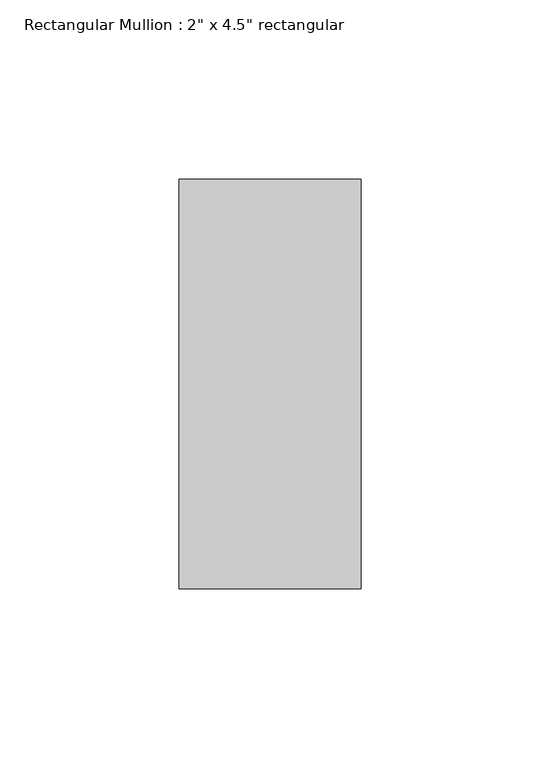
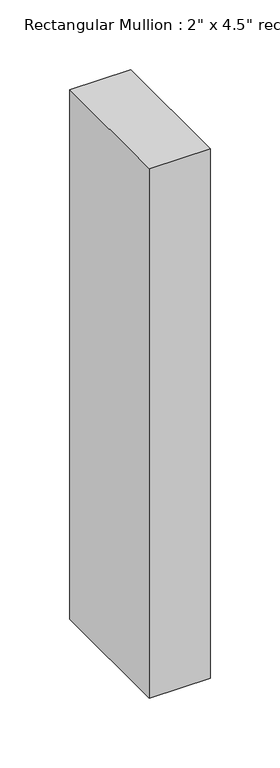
"""IFC4 building model written with IfcOpenShell, lengths in millimetres: member geometry."""

import ifcopenshell
import ifcopenshell.guid

model = None  # the IFC model being written
_history = None  # IfcOwnerHistory: only IFC2X3 demands one
_inside = {}  # id of a spatial element -> (the spatial element, [elements in it])
_under = {}  # id of a project, library or spatial element -> (it, [spatial elements below it])
_declared = {}  # id of a project -> (the project, [libraries it declares])
_typed = {}  # id of a type object -> (the type object, [elements of that type])
_made_of = {}  # id of a material, layer set ... -> (it, [elements and type objects made of it])


def new_model(schema):
    """Start an empty IFC model of exactly this schema.

    Asked for "IFC4X3", IfcOpenShell would pick the latest addendum, in which some entities
    have other attributes; the version numbers below select the first issue.
    IFC2X3 requires an IfcOwnerHistory on every rooted entity: one is made here for all.
    """
    global model, _history
    if schema == "IFC4X3":
        model = ifcopenshell.file(schema_version=(4, 3, 0, 0))
    else:
        model = ifcopenshell.file(schema=schema)
    _inside.clear()
    _under.clear()
    _declared.clear()
    _typed.clear()
    _made_of.clear()
    _history = None
    if model.schema == "IFC2X3":
        org = make("IfcOrganization", Name="unknown")
        user = make(
            "IfcPersonAndOrganization",
            ThePerson=make("IfcPerson", FamilyName="unknown"),
            TheOrganization=org,
        )
        app = make(
            "IfcApplication",
            ApplicationDeveloper=org,
            Version="unknown",
            ApplicationFullName="unknown",
            ApplicationIdentifier="unknown",
        )
        _history = make(
            "IfcOwnerHistory",
            OwningUser=user,
            OwningApplication=app,
            ChangeAction="ADDED",
            CreationDate=0,
        )
    return model


def make(cls, **values):
    """One entity of the class cls with the attributes given. An attribute that is None is left unset."""
    return model.create_entity(
        cls, **{name: value for name, value in values.items() if value is not None}
    )


def rooted(cls, **values):
    """An entity with a GlobalId (a new one), such as an element, a storey or a relation."""
    return make(cls, GlobalId=ifcopenshell.guid.new(), OwnerHistory=_history, **values)


def si_unit(unit_type, name, prefix=None):
    """IfcSIUnit, for example si_unit("LENGTHUNIT", "METRE", prefix="MILLI")."""
    return make("IfcSIUnit", UnitType=unit_type, Prefix=prefix, Name=name)


def assignment(units):
    """IfcUnitAssignment: the units of a project."""
    return None if units is None else make("IfcUnitAssignment", Units=units)


def point(xyz):
    """IfcCartesianPoint."""
    return None if xyz is None else make("IfcCartesianPoint", Coordinates=xyz)


def direction(xyz):
    """IfcDirection."""
    return None if xyz is None else make("IfcDirection", DirectionRatios=xyz)


def frame(location, z_axis=None, x_axis=None):
    """IfcAxis2Placement3D, a coordinate frame: its origin and axes. An axis left out is left unset."""
    return make(
        "IfcAxis2Placement3D",
        Location=point(location),
        Axis=direction(z_axis),
        RefDirection=direction(x_axis),
    )


def origin():
    """The frame at (0, 0, 0) with its axes left unset."""
    return frame((0.0, 0.0, 0.0))


def place(relative_to, where):
    """IfcLocalPlacement: puts the frame where relative to a parent placement (None: the world)."""
    return make(
        "IfcLocalPlacement", PlacementRelTo=relative_to, RelativePlacement=where
    )


def context(
    kind, dimensions, precision=None, world=None, true_north=None, identifier=None
):
    """IfcGeometricRepresentationContext, for example the 3D "Model" context."""
    return make(
        "IfcGeometricRepresentationContext",
        ContextIdentifier=identifier,
        ContextType=kind,
        CoordinateSpaceDimension=dimensions,
        Precision=precision,
        WorldCoordinateSystem=world,
        TrueNorth=true_north,
    )


def project(units=None, contexts=None):
    """IfcProject with its units and contexts."""
    return rooted(
        "IfcProject",
        Name="project",
        RepresentationContexts=contexts,
        UnitsInContext=assignment(units),
    )


def spatial(cls, under=None, at=None, **own):
    """A site, building, storey or space (cls), placed at a placement, below another one or the project."""
    s = rooted(cls, ObjectPlacement=at, **own)
    if under is not None:
        _under.setdefault(under.id(), (under, []))[1].append(s)
    return s


def polyline(points):
    """IfcPolyline through the points."""
    return make("IfcPolyline", Points=[point(p) for p in points])


def outline(outer, holes=None, kind="AREA"):
    """IfcArbitraryClosedProfileDef: a profile drawn as a closed curve; with holes, ...WithVoids."""
    if holes is None:
        return make("IfcArbitraryClosedProfileDef", ProfileType=kind, OuterCurve=outer)
    return make(
        "IfcArbitraryProfileDefWithVoids",
        ProfileType=kind,
        OuterCurve=outer,
        InnerCurves=holes,
    )


def extrude(swept, where, along, depth):
    """IfcExtrudedAreaSolid: the profile swept, set in the frame where, extruded along a direction by depth."""
    return make(
        "IfcExtrudedAreaSolid",
        SweptArea=swept,
        Position=where,
        ExtrudedDirection=direction(along),
        Depth=depth,
    )


def shape(context_of_items, identifier, shape_type, items):
    """IfcShapeRepresentation: the items that make up one representation, for example the "Body"."""
    return make(
        "IfcShapeRepresentation",
        ContextOfItems=context_of_items,
        RepresentationIdentifier=identifier,
        RepresentationType=shape_type,
        Items=items,
    )


def source(mapping_origin, context_of_items, identifier, shape_type, items):
    """IfcRepresentationMap: a shape defined once, which mapped items show again and again."""
    return make(
        "IfcRepresentationMap",
        MappingOrigin=mapping_origin,
        MappedRepresentation=shape(context_of_items, identifier, shape_type, items),
    )


def transform(
    local_origin,
    x_axis=None,
    y_axis=None,
    z_axis=None,
    scale=None,
    scale2=None,
    scale3=None,
    uniform=True,
):
    """IfcCartesianTransformationOperator3D, or its non-uniform kind. x_axis, y_axis, z_axis: its Axis1, 2, 3."""
    if uniform:
        return make(
            "IfcCartesianTransformationOperator3D",
            Axis1=direction(x_axis),
            Axis2=direction(y_axis),
            LocalOrigin=point(local_origin),
            Scale=scale,
            Axis3=direction(z_axis),
        )
    return make(
        "IfcCartesianTransformationOperator3DnonUniform",
        Axis1=direction(x_axis),
        Axis2=direction(y_axis),
        LocalOrigin=point(local_origin),
        Scale=scale,
        Axis3=direction(z_axis),
        Scale2=scale2,
        Scale3=scale3,
    )


def mapped(mapping_source, mapping_target):
    """IfcMappedItem: shows the shape of a source again, moved by a transform."""
    return make(
        "IfcMappedItem", MappingSource=mapping_source, MappingTarget=mapping_target
    )


def made_of(thing, what):
    """Note that an element or type object is made of a material, layer set ...; save() writes the relation."""
    if what is not None:
        _made_of.setdefault(what.id(), (what, []))[1].append(thing)
    return thing


def element(
    cls,
    number,
    at=None,
    inside=None,
    cuts=None,
    type_object=None,
    material=None,
    context=None,
    identifier="Body",
    shape_type=None,
    held_by="IfcProductDefinitionShape",
    body=None,
    shapes=None,
    **own,
):
    """One element of the class cls, such as IfcWall. Its Tag is "e" and its number.

    at: its placement. inside: the storey or other place that contains it. cuts: it is an
    opening in that element (IfcRelVoidsElement). A single representation is given by context,
    identifier, shape_type and body (its items); several are given by shapes. held_by: the class
    of the entity that holds the representations. save() writes the other relations.
    """
    e = rooted(cls, Tag="e%d" % number, ObjectPlacement=at, **own)
    if body is not None:
        shapes = [shape(context, identifier, shape_type, body)]
    if shapes is not None:
        e.Representation = make(held_by, Representations=shapes)
    if inside is not None:
        _inside.setdefault(inside.id(), (inside, []))[1].append(e)
    if cuts is not None:
        rooted(
            "IfcRelVoidsElement", RelatingBuildingElement=cuts, RelatedOpeningElement=e
        )
    if type_object is not None:
        _typed.setdefault(type_object.id(), (type_object, []))[1].append(e)
    return made_of(e, material)


def aggregate(whole, parts):
    """IfcRelAggregates: a whole, such as a stair, and the parts it consists of."""
    return rooted("IfcRelAggregates", RelatingObject=whole, RelatedObjects=parts)


def save(model, path):
    """Write the relations noted so far, then the file.

    IfcRelAggregates (storeys below a building ...), IfcRelContainedInSpatialStructure (elements
    in a storey), IfcRelDefinesByType, IfcRelAssociatesMaterial and IfcRelDeclares: one each for
    every whole, place, type object, material and project.
    """
    for whole, parts in _under.values():
        aggregate(whole, parts)
    for where, things in _inside.values():
        rooted(
            "IfcRelContainedInSpatialStructure",
            RelatedElements=things,
            RelatingStructure=where,
        )
    for kind, things in _typed.values():
        rooted("IfcRelDefinesByType", RelatedObjects=things, RelatingType=kind)
    for what, things in _made_of.values():
        rooted("IfcRelAssociatesMaterial", RelatedObjects=things, RelatingMaterial=what)
    for by, libraries in _declared.values():
        rooted("IfcRelDeclares", RelatingContext=by, RelatedDefinitions=libraries)
    model.write(path)


def member_ac5115e9(model_context):
    return source(origin(), model_context, "Body", "SweptSolid", [
        extrude(outline(polyline([(0.0, 57.15), (0.0, -57.15), (-50.8, -57.15), (-50.8, 57.15), (0.0, 57.15)])), frame((0.0, 0.0, -464.3851948), z_axis=(0.0, 0.0, 1.0), x_axis=(1.0, 0.0, 0.0)), (0.0, 0.0, 1.0), 464.3851948),
    ])


if __name__ == "__main__":
    model = new_model("IFC4")
    model_context = context("Model", 3, world=origin())
    ifc_project = project(units=[si_unit("LENGTHUNIT", "METRE", prefix="MILLI")], contexts=[model_context])
    site = spatial("IfcSite", under=ifc_project)
    building = spatial("IfcBuilding", under=site)
    placement = place(None, origin())
    member_shape = member_ac5115e9(model_context)
    element("IfcMember", 1, ObjectType="Rectangular Mullion : 2\" x 4.5\" rectangular", at=placement, inside=building, context=model_context, shape_type="MappedRepresentation", body=[
        mapped(member_shape, transform((0.0, 0.0, 0.0), x_axis=(1.0, 0.0, 0.0), y_axis=(0.0, 1.0, 0.0), z_axis=(0.0, 0.0, 1.0))),
    ])
    save(model, "model.ifc")
